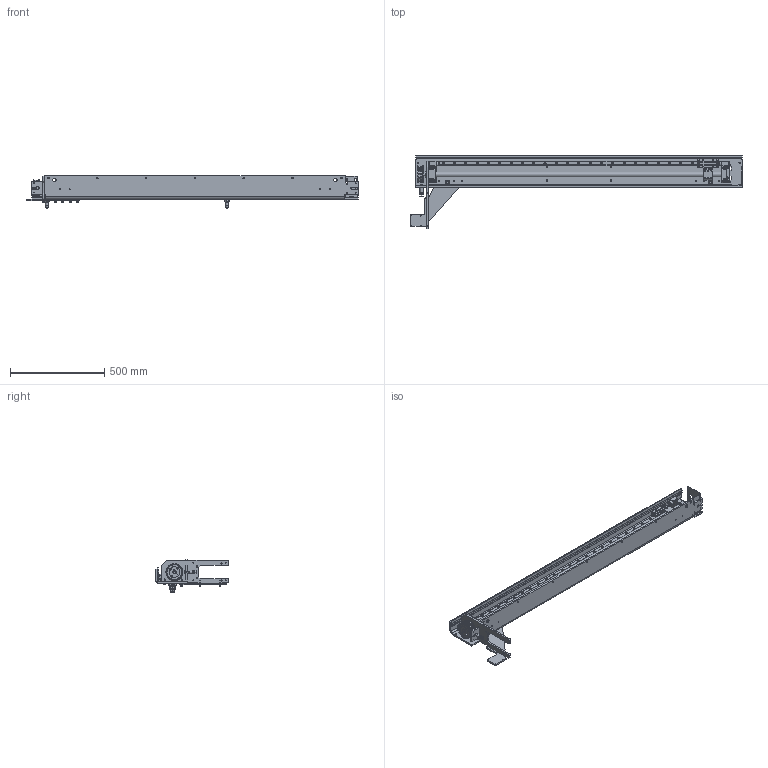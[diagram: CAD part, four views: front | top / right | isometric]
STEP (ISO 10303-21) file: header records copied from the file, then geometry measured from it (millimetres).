
FILE_DESCRIPTION(/* description */ ('BASE PROFILE'),/* implementation_level */ '2;1');
FILE_NAME(/* name */ 'C:\Users\jaccow\AppData\Local\Temp\Cadac\NetworkPub\step\FB982-950.stp',/* time_stamp */ '2018-10-24T16:32:08+02:00',/* author */ ('osr'),/* organization */ (''),/* preprocessor_version */ 'ST-DEVELOPER v16.1',/* originating_system */ 'Autodesk Inventor 2016',/* authorisation */ '');
FILE_SCHEMA (('AUTOMOTIVE_DESIGN { 1 0 10303 214 3 1 1 }'));
Products named in the file (49): FB991-101; FB1003-010; FB1006-021; PP0510-719; FB1067-098; CAA613-2511A; PP0512-719; PP0509-067; CCE1020-0441A; FB999-690; PP0502-886; PP0505-885-1; PP0505-885-2; PP0505-885-3; PP0505-885-4; PP0505-885-5; PP0505-885; CBA515-0281E; FB1008-111; CCA621-0281A; CCE1006-1085C; PP0493-047; FB1045-127; FB1002-690; CCA817-0281A; FB1009-104; CBE819-0461B; CAE1080-1081A; FB1010-034; FB994-101; FB998-101; CAA1060-1082A; CAA1050-1082A; CCA519-0281A; CCA1021-0285A; FB1011-061; PP0508-155-1; PP0508-155-2; PP0508-155; PP0507-155-1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
Assembly tree (144 placements, depth 4):
  FB982-950
    FB991-101
    FB1003-010
    FB1006-021
    PP0510-719
    FB1067-098
    CAA613-2511A
    PP0512-719
    PP0509-067  x2
    CCE1020-0441A
    FB999-690  x2
    PP0502-886
    PP0505-885
      PP0505-885-1
      PP0505-885-2
      PP0505-885-3
      PP0505-885-4
      PP0505-885-5
    CBA515-0281E  x4
    FB1008-111  x2
    CCA621-0281A  x25
    CCE1006-1085C  x25
    PP0493-047  x6
    FB1045-127  x6
    FB1002-690  x2
    CCA817-0281A  x2
    FB1009-104
    CBE819-0461B
    CAE1080-1081A
    FB1010-034
    EPRM-PH-BASE-RIGHT-EPRM4
      FB994-101
      FB998-101
      CAA1060-1082A  x4
      CCA621-0281A  x4
      CAA1050-1082A  x4
      CCA519-0281A  x4
      CCA1021-0285A  x2
      FB1011-061  x2
      PP0508-155
        PP0508-155-1
        PP0508-155-2
      PP0507-155
        PP0507-155-1
        PP0507-155-2
      FB1058-298
      CBA515-0281E  x4
    EPRM-PH-BB-MM1
      CCA841-0281A  x6
      CCA825-0281A  x2
    CCE1008-1085C  x6
Bounding box: 1761 x 392.3 x 170.5 mm (x, y, z)
Volume: 7633429.3 mm3; surface area: 2111817.3 mm2
Topology: 139 solids, 140 shells, 3377 faces, 8338 edges, 5469 vertices
Faces by surface type: plane 2125, cylinder 733, cone 245, bspline 187, torus 87
Full cylindrical faces by diameter (mm): 3.242 x4, 3.5 x4, 4 x2, 4.134 x20, 4.917 x51, 5 x12, 5.3 x4, 5.5 x4, 5.7 x2, 6 x43, 6.4 x4, 6.5 x10, 6.6 x20, 6.647 x17, 7 x29, 7.3 x2, 7.323 x1, 8 x22, 8.376 x14, 8.4 x1, 8.5 x8, 9 x18, 9.5 x14, 10 x31, 10.106 x2, 11 x29, 11.4 x1, 13 x12, 13.2 x4, 13.6 x6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
Entity records: 68200 total; most frequent: CARTESIAN_POINT 16106, ORIENTED_EDGE 9964, DIRECTION 9772, EDGE_CURVE 4982, VERTEX_POINT 3517, AXIS2_PLACEMENT_3D 3298, LINE 3176, VECTOR 3176
